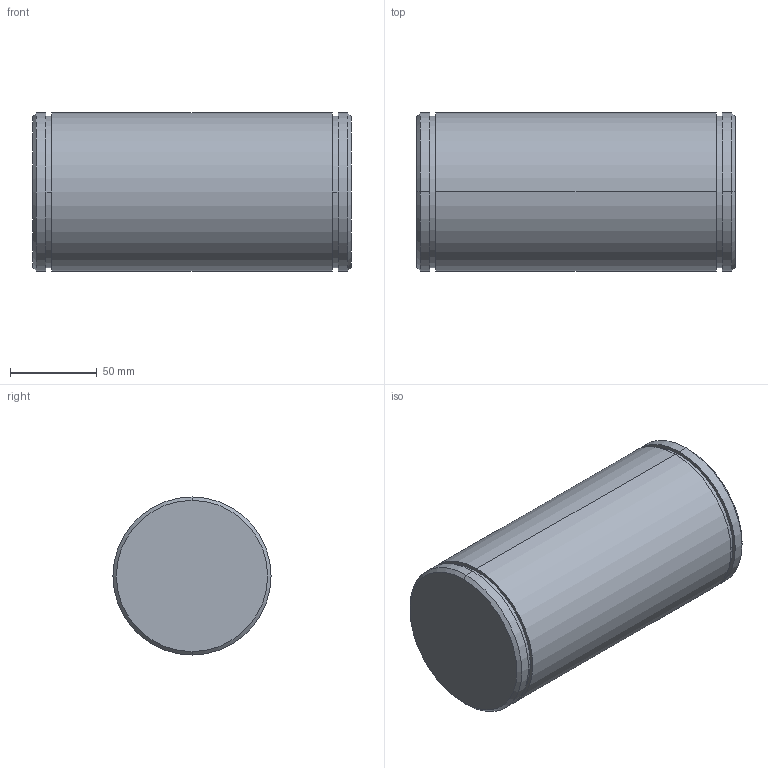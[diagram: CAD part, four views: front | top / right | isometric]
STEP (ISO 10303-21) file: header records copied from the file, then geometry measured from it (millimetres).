
FILE_DESCRIPTION (( 'STEP AP203' ), '1' );
FILE_NAME ('Bolzen Sicherungsring B M85.STEP', '2018-02-22T05:42:33', ( 'install' ), ( 'Hewlett-Packard Company' ), 'SwSTEP 2.0', 'SolidWorks 2017', '' );
FILE_SCHEMA (( 'CONFIG_CONTROL_DESIGN' ));
Length unit declared in the file: millimetre
Products named in the file (1): Bolzen Sicherungsring B M85
Bounding box: 183.2 x 91 x 91 mm (x, y, z)
Volume: 1186674.8 mm3; surface area: 66800.4 mm2
Topology: 1 solids, 1 shells, 20 faces, 38 edges, 24 vertices
Faces by surface type: cylinder 10, plane 6, cone 4
Entity records: 591 total; most frequent: DIRECTION 104, CARTESIAN_POINT 83, ORIENTED_EDGE 76, AXIS2_PLACEMENT_3D 45, EDGE_CURVE 38, CIRCLE 24, EDGE_LOOP 24, VERTEX_POINT 24
